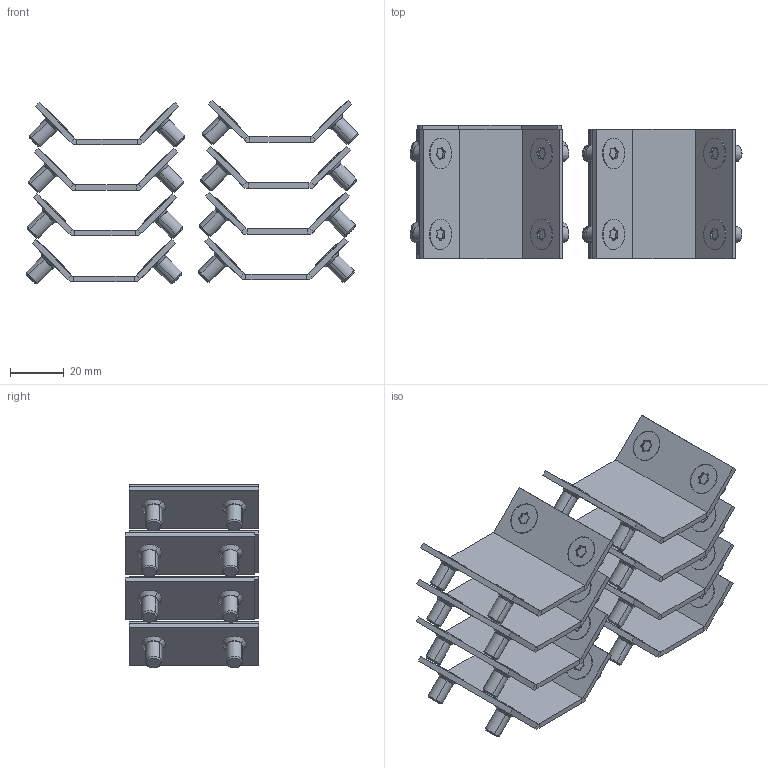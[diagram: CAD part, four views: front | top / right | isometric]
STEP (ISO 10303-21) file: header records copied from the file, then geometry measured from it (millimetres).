
FILE_DESCRIPTION (( 'STEP AP214' ), '1' );
FILE_NAME ('FO-00-CPL FORMAT Ïëàñòèíà ñîåäèíèòåëüíàÿ (8øò. êîìïë) IEK.STEP', '2025-09-29T12:39:43', ( '' ), ( '' ), 'SwSTEP 2.0', 'SolidWorks 2023', '' );
FILE_SCHEMA (( 'AUTOMOTIVE_DESIGN' ));
Length unit declared in the file: millimetre
Products named in the file (2): FO-00-CPL FORMAT Пластина соединительная (8шт. компл) IEK; Пластина соединительная
Assembly tree (8 placements, depth 2):
  FO-00-CPL FORMAT Пластина соединительная (8шт. компл) IEK
    Пластина соединительная  x8
Bounding box: 123.18 x 49.49 x 68.13 mm (x, y, z)
Volume: 58012.4 mm3; surface area: 59273 mm2
Topology: 8 solids, 8 shells, 1200 faces, 3104 edges, 2048 vertices
Faces by surface type: cylinder 800, plane 272, cone 128
Entity records: 4803 total; most frequent: DIRECTION 934, CARTESIAN_POINT 805, ORIENTED_EDGE 776, EDGE_CURVE 388, AXIS2_PLACEMENT_3D 385, VERTEX_POINT 256, CIRCLE 224, EDGE_LOOP 166
